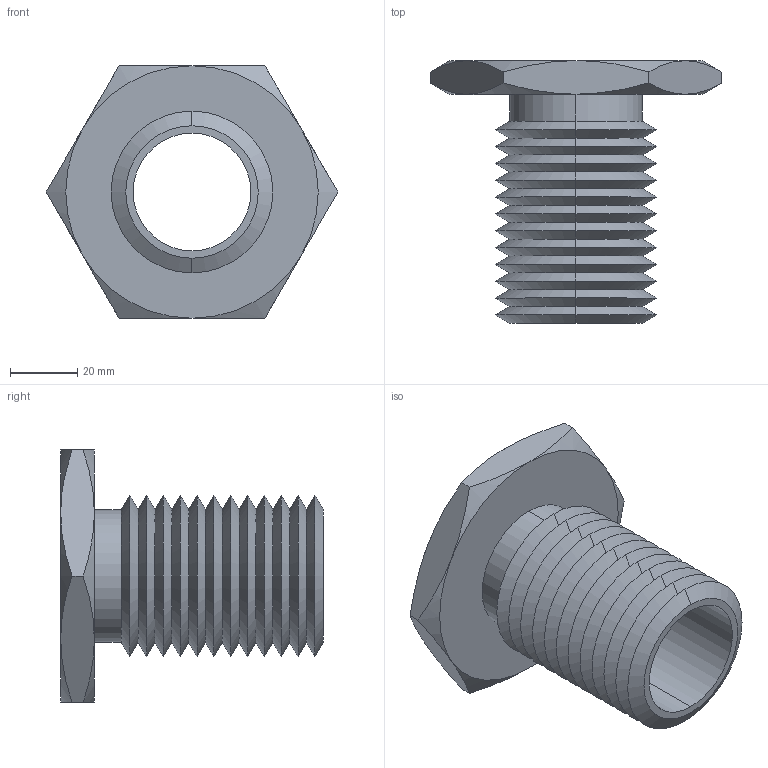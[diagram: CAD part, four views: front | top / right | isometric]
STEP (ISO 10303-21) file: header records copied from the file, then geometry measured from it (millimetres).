
FILE_DESCRIPTION (( 'STEP AP203' ), '1' );
FILE_NAME ('63302.W0048_1,37 UNC-6.step', '2013-12-08T11:20:35', ( 'User' ), ( '' ), 'SwSTEP 2.0', 'SolidWorks 2009', '' );
FILE_SCHEMA (( 'CONFIG_CONTROL_DESIGN' ));
Length unit declared in the file: millimetre
Products named in the file (1): 63302.W0048_1,37 UNC-6
Bounding box: 86.6 x 78 x 75 mm (x, y, z)
Volume: 71790.1 mm3; surface area: 35732.7 mm2
Topology: 1 solids, 1 shells, 75 faces, 154 edges, 82 vertices
Faces by surface type: cone 62, plane 9, cylinder 4
Entity records: 2139 total; most frequent: CARTESIAN_POINT 496, DIRECTION 352, ORIENTED_EDGE 308, EDGE_CURVE 154, AXIS2_PLACEMENT_3D 146, VERTEX_POINT 82, EDGE_LOOP 78, ADVANCED_FACE 75
